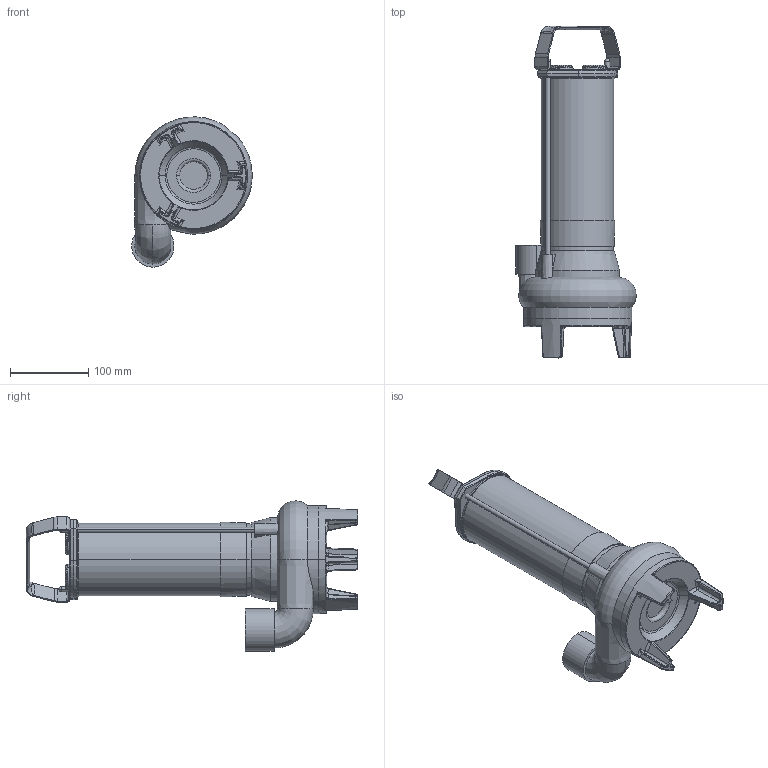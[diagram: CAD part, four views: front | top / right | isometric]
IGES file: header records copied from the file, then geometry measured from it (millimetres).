
Start section:  PTC IGES file: drainex_100.igs
Global section: file name: drainex_100.igs; native system: Pro/ENGINEER by Parametric Technology Corporation; preprocessor: 2008150; author: usuari; organization: Unknown; date: 20151028.092017; units: millimetre
Bounding box: 153.97 x 423.74 x 191.93 mm (x, y, z)
Surface area: 198243.5 mm2 (no closed solid volume)
Topology: 0 solids, 0 shells, 338 faces, 1595 edges, 1595 vertices
Faces by surface type: bspline 169, revolution 167, extrusion 2
